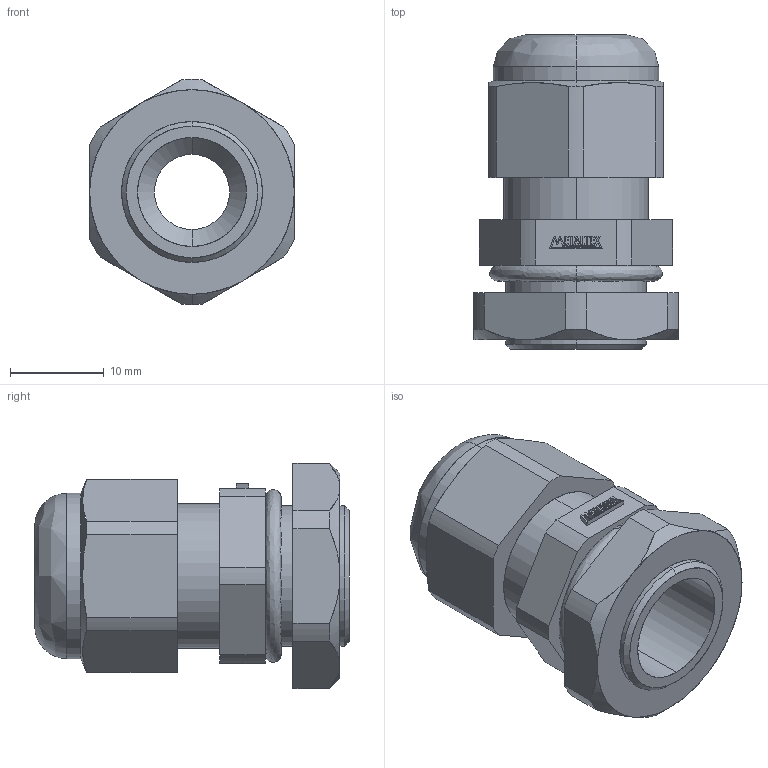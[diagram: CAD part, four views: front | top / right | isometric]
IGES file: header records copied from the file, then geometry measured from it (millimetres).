
Start section: SolidWorks IGES file using analytic representation for surfaces
Global section: file name: D:\X - Arquivos\PROEX\Empresas\P11 - METALTEX\01 - Produtos\IGES\Terceira remessa\Etapa 2\CH-M16.IGS; native system: SolidWorks 2012; preprocessor: SolidWorks 2012; author: Usuario; date: 180207.124734; units: millimetre
Bounding box: 21.8 x 33.5 x 23.99 mm (x, y, z)
Surface area: 4229.9 mm2 (no closed solid volume)
Topology: 0 solids, 0 shells, 174 faces, 1301 edges, 1301 vertices
Faces by surface type: bspline 125, revolution 49
